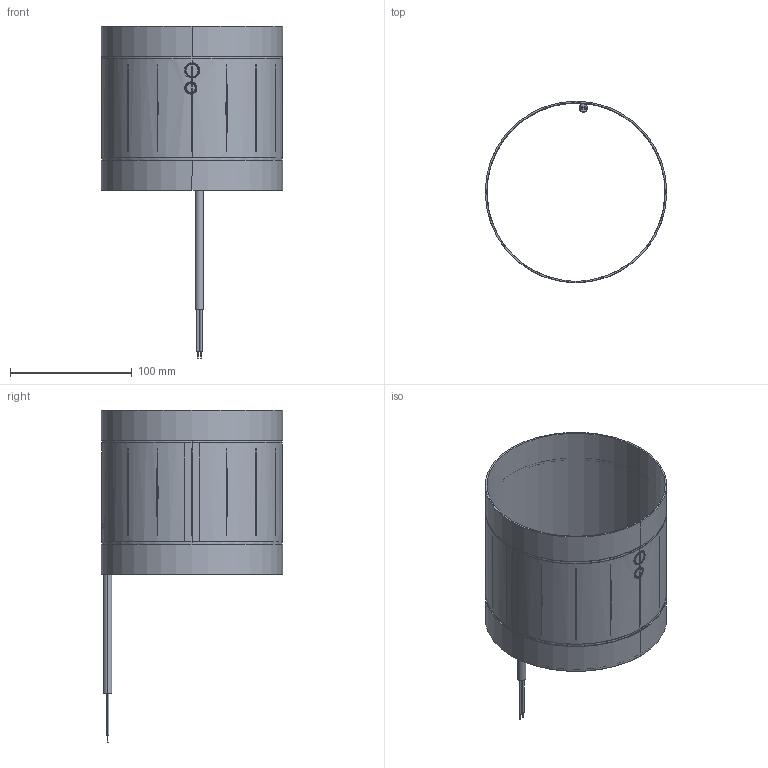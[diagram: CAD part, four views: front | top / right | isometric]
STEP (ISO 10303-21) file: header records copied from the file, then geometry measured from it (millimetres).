
FILE_DESCRIPTION (( 'STEP AP203' ), '1' );
FILE_NAME ('136417-00_EM150E201.STEP', '2016-12-06T12:32:31', ( '' ), ( '' ), 'SwSTEP 2.0', 'SolidWorks 2012', '' );
FILE_SCHEMA (( 'CONFIG_CONTROL_DESIGN' ));
Length unit declared in the file: millimetre
Products named in the file (1): 136417-00_EM150E201
Bounding box: 149 x 149 x 272.5 mm (x, y, z)
Surface area: 129689.9 mm2 (no closed solid volume)
Topology: 0 solids, 3 shells, 132 faces, 462 edges, 321 vertices
Faces by surface type: cylinder 58, bspline 49, plane 19, cone 4, torus 2
Entity records: 7393 total; most frequent: CARTESIAN_POINT 3990, ORIENTED_EDGE 700, DIRECTION 545, EDGE_CURVE 462, VERTEX_POINT 321, AXIS2_PLACEMENT_3D 236, B_SPLINE_CURVE_WITH_KNOTS 225, EDGE_LOOP 159
